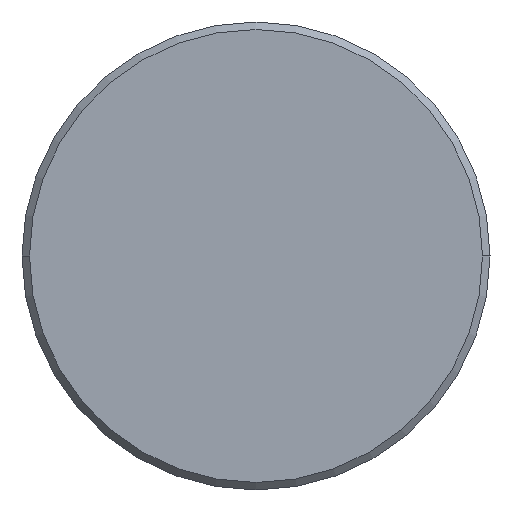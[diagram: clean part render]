
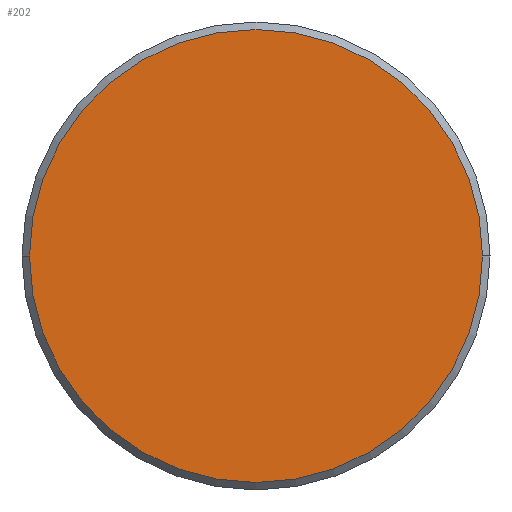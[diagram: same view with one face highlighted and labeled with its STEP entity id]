
A CAD part, left-side view. The second image highlights one B-rep face of the part: STEP entity #202.
In plain terms, the highlighted planar face has unit normal (-1, 0, 0).
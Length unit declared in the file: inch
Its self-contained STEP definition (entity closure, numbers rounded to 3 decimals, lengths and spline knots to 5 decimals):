
#13 = DIRECTION ( 'NONE',  ( -1., 0., 0. ) ) ;
#14 = CARTESIAN_POINT ( 'NONE',  ( 0., -0.121, 0. ) ) ;
#16 = VERTEX_POINT ( 'NONE', #241 ) ;
#32 = EDGE_CURVE ( 'NONE', #193, #16, #237, .T. ) ;
#68 = DIRECTION ( 'NONE',  ( 0., -1., 0. ) ) ;
#103 = CARTESIAN_POINT ( 'NONE',  ( 0., 0., 0. ) ) ;
#124 = ORIENTED_EDGE ( 'NONE', *, *, #292, .T. ) ;
#146 = CIRCLE ( 'NONE', #206, 0.121 ) ;
#160 = AXIS2_PLACEMENT_3D ( 'NONE', #103, #13, #170 ) ;
#170 = DIRECTION ( 'NONE',  ( 0., -1., 0. ) ) ;
#177 = CARTESIAN_POINT ( 'NONE',  ( 0., 0., 0. ) ) ;
#193 = VERTEX_POINT ( 'NONE', #14 ) ;
#195 = AXIS2_PLACEMENT_3D ( 'NONE', #177, #208, #351 ) ;
#197 = PLANE ( 'NONE',  #160 ) ;
#202 = ADVANCED_FACE ( 'NONE', ( #343 ), #197, .T. ) ;
#206 = AXIS2_PLACEMENT_3D ( 'NONE', #316, #263, #68 ) ;
#208 = DIRECTION ( 'NONE',  ( -1., 0., 0. ) ) ;
#211 = EDGE_LOOP ( 'NONE', ( #124, #354 ) ) ;
#237 = CIRCLE ( 'NONE', #195, 0.121 ) ;
#241 = CARTESIAN_POINT ( 'NONE',  ( 0., 0.121, 0. ) ) ;
#263 = DIRECTION ( 'NONE',  ( -1., 0., 0. ) ) ;
#292 = EDGE_CURVE ( 'NONE', #16, #193, #146, .T. ) ;
#316 = CARTESIAN_POINT ( 'NONE',  ( 0., 0., 0. ) ) ;
#343 = FACE_OUTER_BOUND ( 'NONE', #211, .T. ) ;
#351 = DIRECTION ( 'NONE',  ( 0., -1., 0. ) ) ;
#354 = ORIENTED_EDGE ( 'NONE', *, *, #32, .T. ) ;
